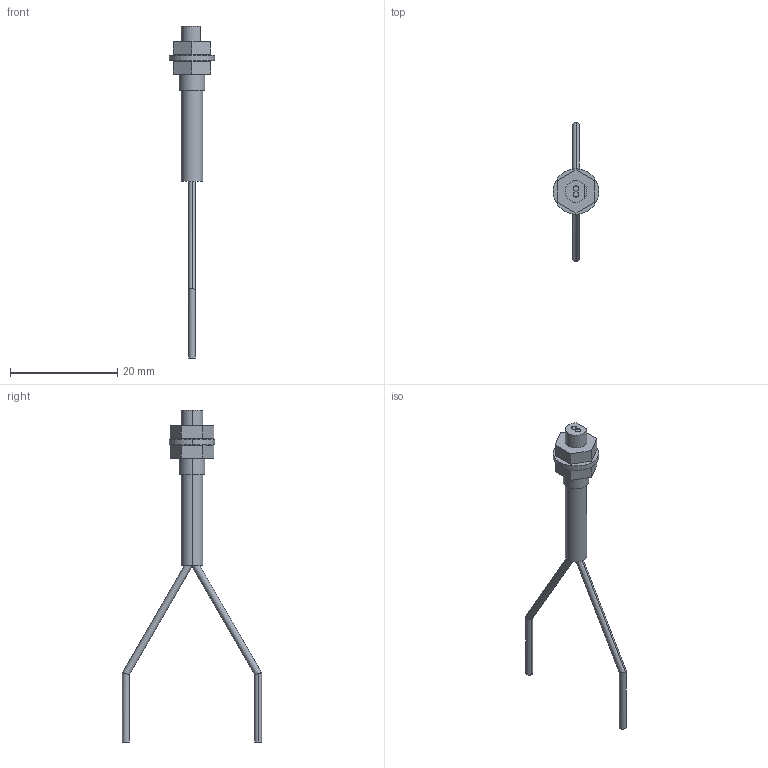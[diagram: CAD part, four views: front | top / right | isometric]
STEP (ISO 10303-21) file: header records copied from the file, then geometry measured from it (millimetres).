
FILE_DESCRIPTION (( 'STEP AP203' ), '1' );
FILE_NAME ('FD-T80.STEP', '2005-09-04T10:22:30', ( '川島良英' ), ( ' ' ), 'SwSTEP 2.0', 'SolidWorks 2004251', '' );
FILE_SCHEMA (( 'CONFIG_CONTROL_DESIGN' ));
Length unit declared in the file: millimetre
Products named in the file (1): FD-T80
Bounding box: 8.5 x 25.97 x 62 mm (x, y, z)
Volume: 736.3 mm3; surface area: 1330 mm2
Topology: 7 solids, 7 shells, 60 faces, 127 edges, 84 vertices
Faces by surface type: plane 30, cylinder 30
Entity records: 1696 total; most frequent: CARTESIAN_POINT 314, DIRECTION 279, ORIENTED_EDGE 254, EDGE_CURVE 127, AXIS2_PLACEMENT_3D 105, VERTEX_POINT 84, EDGE_LOOP 69, VECTOR 69
